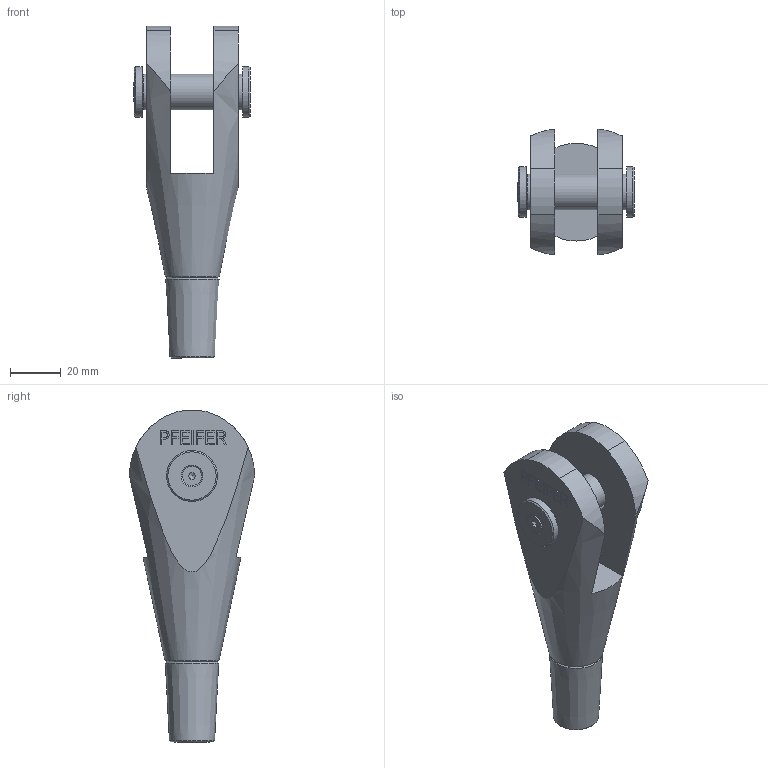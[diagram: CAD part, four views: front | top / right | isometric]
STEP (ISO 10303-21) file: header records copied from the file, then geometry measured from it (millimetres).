
FILE_DESCRIPTION(/* description */ (''),/* implementation_level */ '2;1');
FILE_NAME(/* name */ 'C:\Vault_WS\Designs\520-014-GAK.stp',/* time_stamp */ '2020-06-25T07:44:38+02:00',/* author */ ('schwarz'),/* organization */ (''),/* preprocessor_version */ 'ST-DEVELOPER v16.1',/* originating_system */ 'Autodesk Inventor 2016',/* authorisation */ '');
FILE_SCHEMA (('AUTOMOTIVE_DESIGN { 1 0 10303 214 3 1 1 }'));
Length unit declared in the file: centimetre
Products named in the file (1): 520-014-GAK-KMU-Kunde
Bounding box: 45.78 x 49.18 x 130.42 mm (x, y, z)
Volume: 78612.4 mm3; surface area: 22752.8 mm2
Topology: 2 solids, 3 shells, 186 faces, 482 edges, 319 vertices
Faces by surface type: plane 136, bspline 21, cylinder 16, cone 13
Full cylindrical faces by diameter (mm): 3.242 x1, 4 x1, 4.5 x1, 7.53 x1, 14 x1, 14.8 x1, 16 x2, 20 x2
Entity records: 5760 total; most frequent: CARTESIAN_POINT 1264, ORIENTED_EDGE 900, DIRECTION 768, EDGE_CURVE 450, LINE 348, VECTOR 348, VERTEX_POINT 310, EDGE_LOOP 230
